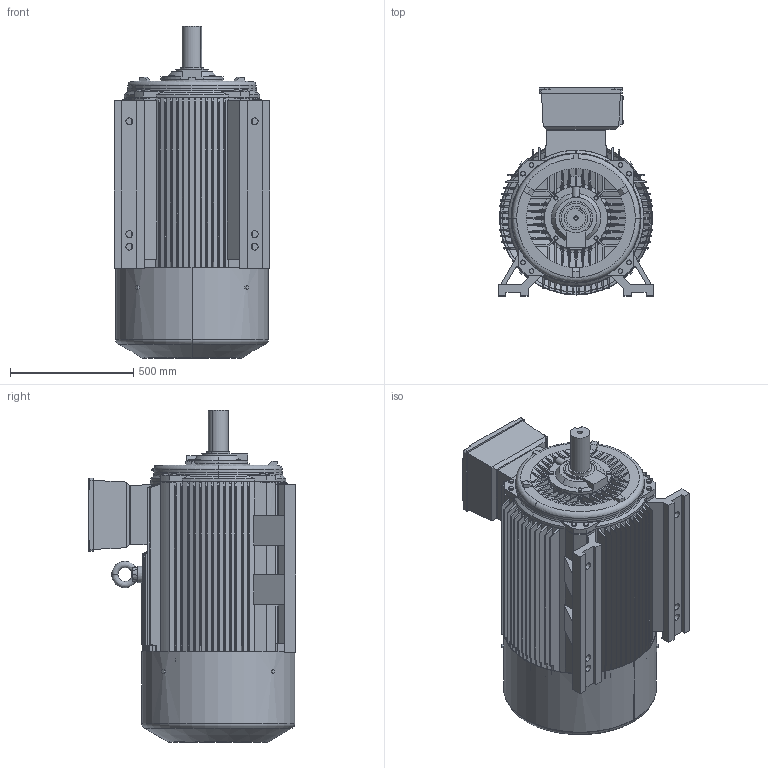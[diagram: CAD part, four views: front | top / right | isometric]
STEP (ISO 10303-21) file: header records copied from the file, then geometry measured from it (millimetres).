
FILE_DESCRIPTION (( 'STEP AP203' ), '1' );
FILE_NAME ('TE3-315ML-4,6,8 B3上.STEP', '2019-12-31T00:00:45', ( '微软用户' ), ( '微软中国' ), 'SwSTEP 2.0', 'SolidWorks 2012', '' );
FILE_SCHEMA (( 'CONFIG_CONTROL_DESIGN' ));
Products named in the file (14): TE3-315ML-4,6,8 B3奻; YE3-315-4,6,8粣扥; Y2-315-4,6,8,10轴承外盖（轴伸）; hex head bolts-full thread grade c gb_GB_FASTENER_BOLT_HHBFTC M12X30-N; Y2-135 P24諉盄碟; hex head bolts-full thread grade c gb_GB_FASTENER_BOLT_HHBFTC M6X20-N; hex head bolts-full thread grade c gb_GB_FASTENER_BOLT_HHBFTC M10X20-N; 諉盄碟裔 WY315; 諉盄碟釱Y2-315; 蚐戚; eyebolts gb_GB_FASTENER_SCREWS_FRS M30-N; 8SLJ.306.00027（风罩YE3-315-4.6.8）; 8LY2.315.014.003（端盖（轴伸）Y2-315-4,6,8,10）; 8LY2.315.034.002(儂釱Y2-315ML) 
Assembly tree (30 placements, depth 3):
  TE3-315ML-4,6,8 B3奻
    8LY2.315.034.002(儂釱Y2-315ML) 
    8LY2.315.014.003（端盖（轴伸）Y2-315-4,6,8,10）
    8SLJ.306.00027（风罩YE3-315-4.6.8）
    eyebolts gb_GB_FASTENER_SCREWS_FRS M30-N
    蚐戚
    Y2-135 P24諉盄碟
      諉盄碟釱Y2-315
      諉盄碟裔 WY315
      hex head bolts-full thread grade c gb_GB_FASTENER_BOLT_HHBFTC M10X20-N  x4
      hex head bolts-full thread grade c gb_GB_FASTENER_BOLT_HHBFTC M6X20-N  x4
    hex head bolts-full thread grade c gb_GB_FASTENER_BOLT_HHBFTC M12X30-N  x8
    hex head bolts-full thread grade c gb_GB_FASTENER_BOLT_HHBFTC M10X20-N  x4
    Y2-315-4,6,8,10轴承外盖（轴伸）
    YE3-315-4,6,8粣扥
Bounding box: 628 x 842.4 x 1345 mm (x, y, z)
Volume: 237577842.2 mm3; surface area: 8930774.8 mm2
Topology: 30 solids, 30 shells, 9154 faces, 24238 edges, 16107 vertices
Faces by surface type: plane 4888, cylinder 3714, cone 324, bspline 150, torus 76, sphere 2
Entity records: 321549 total; most frequent: CARTESIAN_POINT 94859, DIRECTION 47242, ORIENTED_EDGE 46898, EDGE_CURVE 23449, AXIS2_PLACEMENT_3D 16252, VERTEX_POINT 15628, LINE 14738, VECTOR 14738
